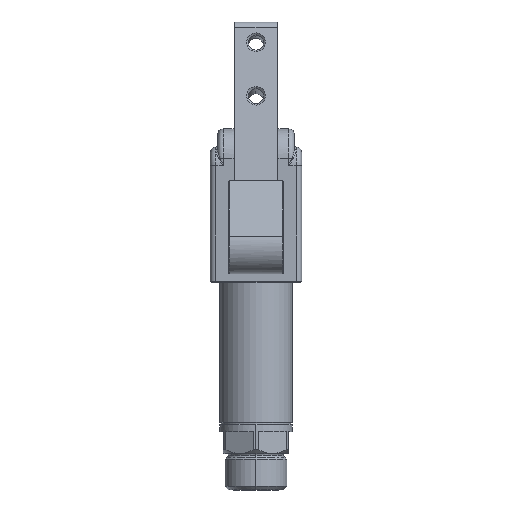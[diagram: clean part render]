
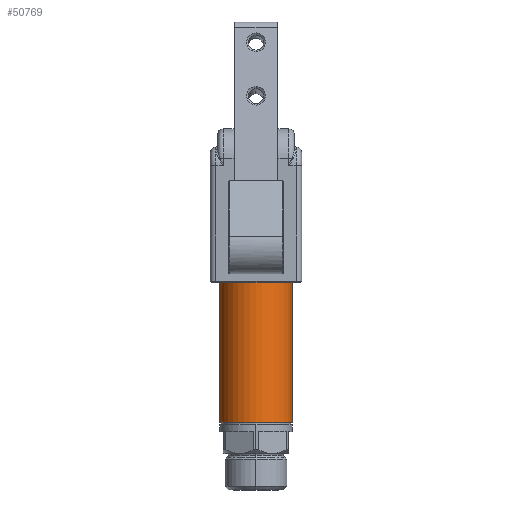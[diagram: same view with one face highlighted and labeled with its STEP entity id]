
A CAD part, left-side view. The second image highlights one B-rep face of the part: STEP entity #50769.
In plain terms, the highlighted cylindrical face has radius 10 mm (diameter 20 mm), a partial arc.
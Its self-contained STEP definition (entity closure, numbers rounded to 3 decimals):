
#1289 = ORIENTED_EDGE ( 'NONE', *, *, #48974, .F. ) ;
#1976 = CARTESIAN_POINT ( 'NONE',  ( 0., -10., 57. ) ) ;
#3262 = ORIENTED_EDGE ( 'NONE', *, *, #20301, .T. ) ;
#3649 = EDGE_LOOP ( 'NONE', ( #3262, #33671, #1289, #54645, #54834 ) ) ;
#3894 = DIRECTION ( 'NONE',  ( -1., 0., 0. ) ) ;
#5732 = CARTESIAN_POINT ( 'NONE',  ( 0., -10., 18.6 ) ) ;
#5894 = VERTEX_POINT ( 'NONE', #22406 ) ;
#7291 = LINE ( 'NONE', #44302, #51242 ) ;
#7630 = AXIS2_PLACEMENT_3D ( 'NONE', #29926, #38580, #21593 ) ;
#8280 = AXIS2_PLACEMENT_3D ( 'NONE', #54894, #29199, #3894 ) ;
#9284 = VERTEX_POINT ( 'NONE', #5732 ) ;
#9878 = CARTESIAN_POINT ( 'NONE',  ( 0., 0., 18.6 ) ) ;
#11540 = CARTESIAN_POINT ( 'NONE',  ( 0., 0., 57. ) ) ;
#13220 = VERTEX_POINT ( 'NONE', #43803 ) ;
#13751 = CYLINDRICAL_SURFACE ( 'NONE', #7630, 10. ) ;
#14153 = DIRECTION ( 'NONE',  ( -1., 0., 0. ) ) ;
#15793 = DIRECTION ( 'NONE',  ( 0., 1., 0. ) ) ;
#18604 = CARTESIAN_POINT ( 'NONE',  ( 0., -10., 57. ) ) ;
#20301 = EDGE_CURVE ( 'NONE', #13220, #25261, #30810, .T. ) ;
#21593 = DIRECTION ( 'NONE',  ( 0., 1., 0. ) ) ;
#21833 = EDGE_CURVE ( 'NONE', #13220, #52310, #7291, .T. ) ;
#22406 = CARTESIAN_POINT ( 'NONE',  ( -10., 0., 18.6 ) ) ;
#23869 = CARTESIAN_POINT ( 'NONE',  ( 0., 10., 18.6 ) ) ;
#25261 = VERTEX_POINT ( 'NONE', #1976 ) ;
#29199 = DIRECTION ( 'NONE',  ( 0., 0., 1. ) ) ;
#29926 = CARTESIAN_POINT ( 'NONE',  ( 0., 0., 57. ) ) ;
#30370 = CIRCLE ( 'NONE', #8280, 10. ) ;
#30810 = CIRCLE ( 'NONE', #33384, 10. ) ;
#32347 = AXIS2_PLACEMENT_3D ( 'NONE', #9878, #39607, #14153 ) ;
#32349 = CIRCLE ( 'NONE', #32347, 10. ) ;
#33384 = AXIS2_PLACEMENT_3D ( 'NONE', #11540, #41288, #15793 ) ;
#33671 = ORIENTED_EDGE ( 'NONE', *, *, #35388, .T. ) ;
#35388 = EDGE_CURVE ( 'NONE', #25261, #9284, #53774, .T. ) ;
#37660 = FACE_OUTER_BOUND ( 'NONE', #3649, .T. ) ;
#38580 = DIRECTION ( 'NONE',  ( 0., 0., -1. ) ) ;
#39607 = DIRECTION ( 'NONE',  ( 0., 0., 1. ) ) ;
#41288 = DIRECTION ( 'NONE',  ( 0., 0., 1. ) ) ;
#43803 = CARTESIAN_POINT ( 'NONE',  ( 0., 10., 57. ) ) ;
#44140 = DIRECTION ( 'NONE',  ( 0., 0., -1. ) ) ;
#44302 = CARTESIAN_POINT ( 'NONE',  ( 0., 10., 57. ) ) ;
#48099 = EDGE_CURVE ( 'NONE', #52310, #5894, #32349, .T. ) ;
#48974 = EDGE_CURVE ( 'NONE', #5894, #9284, #30370, .T. ) ;
#50769 = ADVANCED_FACE ( 'NONE', ( #37660 ), #13751, .F. ) ;
#51242 = VECTOR ( 'NONE', #52933, 1000. ) ;
#52310 = VERTEX_POINT ( 'NONE', #23869 ) ;
#52427 = VECTOR ( 'NONE', #44140, 1000. ) ;
#52933 = DIRECTION ( 'NONE',  ( 0., 0., -1. ) ) ;
#53774 = LINE ( 'NONE', #18604, #52427 ) ;
#54645 = ORIENTED_EDGE ( 'NONE', *, *, #48099, .F. ) ;
#54834 = ORIENTED_EDGE ( 'NONE', *, *, #21833, .F. ) ;
#54894 = CARTESIAN_POINT ( 'NONE',  ( 0., 0., 18.6 ) ) ;
